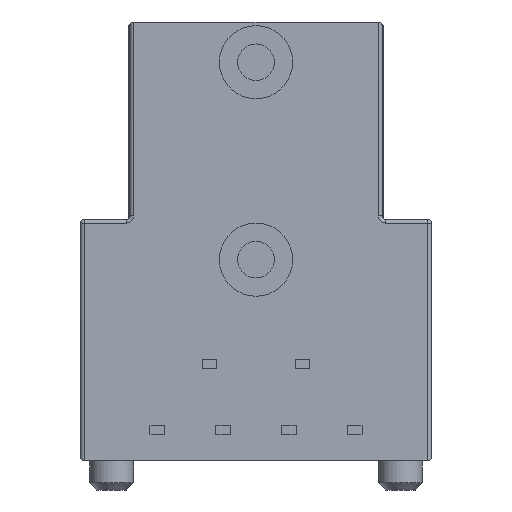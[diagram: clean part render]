
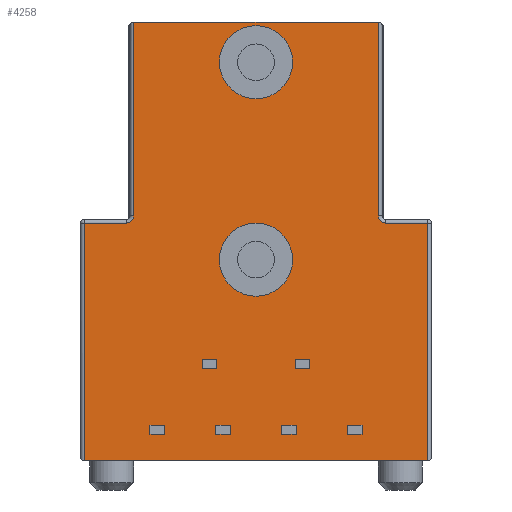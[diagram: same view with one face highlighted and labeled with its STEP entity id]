
A CAD part, front view. The second image highlights one B-rep face of the part: STEP entity #4258.
In plain terms, the highlighted planar face has unit normal (0, -1, 0).
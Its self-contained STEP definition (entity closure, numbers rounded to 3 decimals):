
#32 = ORIENTED_EDGE ( 'NONE', *, *, #3392, .T. ) ;
#75 = CARTESIAN_POINT ( 'NONE',  ( -5.307, -3.525, 19.2 ) ) ;
#81 = VERTEX_POINT ( 'NONE', #1781 ) ;
#92 = CARTESIAN_POINT ( 'NONE',  ( 1.093, -3.525, 19.2 ) ) ;
#237 = EDGE_LOOP ( 'NONE', ( #648, #1984 ) ) ;
#310 = VERTEX_POINT ( 'NONE', #2303 ) ;
#325 = VERTEX_POINT ( 'NONE', #1604 ) ;
#326 = LINE ( 'NONE', #1765, #4383 ) ;
#370 = VECTOR ( 'NONE', #2217, 1000. ) ;
#385 = EDGE_CURVE ( 'NONE', #4592, #2360, #3353, .T. ) ;
#394 = ORIENTED_EDGE ( 'NONE', *, *, #789, .T. ) ;
#439 = VECTOR ( 'NONE', #2723, 1000. ) ;
#456 = EDGE_CURVE ( 'NONE', #1485, #4478, #326, .T. ) ;
#477 = EDGE_CURVE ( 'NONE', #1816, #81, #839, .T. ) ;
#555 = DIRECTION ( 'NONE',  ( -1., 0., 0. ) ) ;
#564 = EDGE_LOOP ( 'NONE', ( #3582, #2120 ) ) ;
#602 = DIRECTION ( 'NONE',  ( -1., 0., 0. ) ) ;
#635 = DIRECTION ( 'NONE',  ( 0., 0., 1. ) ) ;
#648 = ORIENTED_EDGE ( 'NONE', *, *, #477, .F. ) ;
#758 = VECTOR ( 'NONE', #2672, 1000. ) ;
#778 = CARTESIAN_POINT ( 'NONE',  ( -1.957, -3.525, 18.1 ) ) ;
#789 = EDGE_CURVE ( 'NONE', #2210, #3567, #955, .T. ) ;
#839 = CIRCLE ( 'NONE', #4086, 1. ) ;
#955 = LINE ( 'NONE', #2681, #1883 ) ;
#1027 = EDGE_LOOP ( 'NONE', ( #4336, #1225, #394, #2363, #4355, #1545, #2893, #3626, #3832, #32 ) ) ;
#1204 = EDGE_CURVE ( 'NONE', #4592, #2131, #2500, .T. ) ;
#1225 = ORIENTED_EDGE ( 'NONE', *, *, #2356, .T. ) ;
#1284 = FACE_BOUND ( 'NONE', #564, .T. ) ;
#1329 = PLANE ( 'NONE',  #2308 ) ;
#1406 = CARTESIAN_POINT ( 'NONE',  ( -6.757, -3.525, 13.7 ) ) ;
#1485 = VERTEX_POINT ( 'NONE', #1911 ) ;
#1545 = ORIENTED_EDGE ( 'NONE', *, *, #4521, .F. ) ;
#1579 = DIRECTION ( 'NONE',  ( -1., 0., 0. ) ) ;
#1604 = CARTESIAN_POINT ( 'NONE',  ( -5.307, -3.525, 19.2 ) ) ;
#1616 = CARTESIAN_POINT ( 'NONE',  ( -5.507, -3.525, 13.7 ) ) ;
#1678 = CARTESIAN_POINT ( 'NONE',  ( -1.957, -3.525, 11.7 ) ) ;
#1699 = VECTOR ( 'NONE', #3104, 1000. ) ;
#1720 = EDGE_CURVE ( 'NONE', #1485, #3567, #3694, .T. ) ;
#1765 = CARTESIAN_POINT ( 'NONE',  ( 1.393, -3.525, 19.2 ) ) ;
#1781 = CARTESIAN_POINT ( 'NONE',  ( -1.957, -3.525, 17.1 ) ) ;
#1816 = VERTEX_POINT ( 'NONE', #2253 ) ;
#1866 = AXIS2_PLACEMENT_3D ( 'NONE', #4028, #3678, #1579 ) ;
#1883 = VECTOR ( 'NONE', #555, 1000. ) ;
#1911 = CARTESIAN_POINT ( 'NONE',  ( 1.393, -3.525, 13.9 ) ) ;
#1912 = DIRECTION ( 'NONE',  ( -1., 0., 0. ) ) ;
#1984 = ORIENTED_EDGE ( 'NONE', *, *, #4033, .F. ) ;
#1995 = CARTESIAN_POINT ( 'NONE',  ( -5.007, -3.525, 7.2 ) ) ;
#2051 = CARTESIAN_POINT ( 'NONE',  ( -1.957, -3.525, 18.1 ) ) ;
#2092 = CIRCLE ( 'NONE', #1866, 1. ) ;
#2120 = ORIENTED_EDGE ( 'NONE', *, *, #3029, .F. ) ;
#2131 = VERTEX_POINT ( 'NONE', #2205 ) ;
#2196 = CIRCLE ( 'NONE', #2786, 1. ) ;
#2198 = DIRECTION ( 'NONE',  ( -1., 0., 0. ) ) ;
#2205 = CARTESIAN_POINT ( 'NONE',  ( -6.657, -3.525, 13.7 ) ) ;
#2210 = VERTEX_POINT ( 'NONE', #4063 ) ;
#2217 = DIRECTION ( 'NONE',  ( 0., 0., -1. ) ) ;
#2253 = CARTESIAN_POINT ( 'NONE',  ( -1.957, -3.525, 19.1 ) ) ;
#2294 = CARTESIAN_POINT ( 'NONE',  ( -1.957, -3.525, 13.7 ) ) ;
#2303 = CARTESIAN_POINT ( 'NONE',  ( -6.657, -3.525, 7.2 ) ) ;
#2308 = AXIS2_PLACEMENT_3D ( 'NONE', #3458, #2701, #3509 ) ;
#2356 = EDGE_CURVE ( 'NONE', #2513, #2210, #2782, .T. ) ;
#2360 = VERTEX_POINT ( 'NONE', #3468 ) ;
#2363 = ORIENTED_EDGE ( 'NONE', *, *, #1720, .F. ) ;
#2422 = LINE ( 'NONE', #1995, #439 ) ;
#2444 = DIRECTION ( 'NONE',  ( 0., -1., 0. ) ) ;
#2486 = VECTOR ( 'NONE', #3148, 1000. ) ;
#2500 = LINE ( 'NONE', #1406, #2486 ) ;
#2513 = VERTEX_POINT ( 'NONE', #3240 ) ;
#2575 = EDGE_CURVE ( 'NONE', #3492, #2715, #2196, .T. ) ;
#2599 = CARTESIAN_POINT ( 'NONE',  ( -6.657, -3.525, 7.2 ) ) ;
#2615 = CARTESIAN_POINT ( 'NONE',  ( -1.957, -3.525, 12.7 ) ) ;
#2627 = DIRECTION ( 'NONE',  ( 0., -1., 0. ) ) ;
#2672 = DIRECTION ( 'NONE',  ( 1., 0., 0. ) ) ;
#2681 = CARTESIAN_POINT ( 'NONE',  ( -5.407, -3.525, 13.7 ) ) ;
#2701 = DIRECTION ( 'NONE',  ( 0., 1., 0. ) ) ;
#2715 = VERTEX_POINT ( 'NONE', #1678 ) ;
#2723 = DIRECTION ( 'NONE',  ( -1., 0., 0. ) ) ;
#2782 = LINE ( 'NONE', #3422, #1699 ) ;
#2786 = AXIS2_PLACEMENT_3D ( 'NONE', #2615, #2939, #1912 ) ;
#2893 = ORIENTED_EDGE ( 'NONE', *, *, #4059, .T. ) ;
#2939 = DIRECTION ( 'NONE',  ( 0., -1., 0. ) ) ;
#3029 = EDGE_CURVE ( 'NONE', #2715, #3492, #2092, .T. ) ;
#3048 = CARTESIAN_POINT ( 'NONE',  ( -5.507, -3.525, 13.9 ) ) ;
#3101 = EDGE_CURVE ( 'NONE', #2513, #310, #2422, .T. ) ;
#3104 = DIRECTION ( 'NONE',  ( 0., 0., 1. ) ) ;
#3148 = DIRECTION ( 'NONE',  ( -1., 0., 0. ) ) ;
#3151 = DIRECTION ( 'NONE',  ( -1., 0., 0. ) ) ;
#3240 = CARTESIAN_POINT ( 'NONE',  ( 2.743, -3.525, 7.2 ) ) ;
#3337 = CIRCLE ( 'NONE', #4226, 1. ) ;
#3353 = CIRCLE ( 'NONE', #4163, 0.2 ) ;
#3358 = LINE ( 'NONE', #2599, #4369 ) ;
#3392 = EDGE_CURVE ( 'NONE', #2131, #310, #3358, .T. ) ;
#3422 = CARTESIAN_POINT ( 'NONE',  ( 2.743, -3.525, 13.8 ) ) ;
#3458 = CARTESIAN_POINT ( 'NONE',  ( -5.407, -3.525, 19.2 ) ) ;
#3468 = CARTESIAN_POINT ( 'NONE',  ( -5.307, -3.525, 13.9 ) ) ;
#3492 = VERTEX_POINT ( 'NONE', #2294 ) ;
#3509 = DIRECTION ( 'NONE',  ( 1., 0., 0. ) ) ;
#3567 = VERTEX_POINT ( 'NONE', #4210 ) ;
#3582 = ORIENTED_EDGE ( 'NONE', *, *, #2575, .F. ) ;
#3625 = AXIS2_PLACEMENT_3D ( 'NONE', #3748, #2627, #3151 ) ;
#3626 = ORIENTED_EDGE ( 'NONE', *, *, #385, .F. ) ;
#3655 = CARTESIAN_POINT ( 'NONE',  ( 1.393, -3.525, 19.2 ) ) ;
#3678 = DIRECTION ( 'NONE',  ( 0., -1., 0. ) ) ;
#3694 = CIRCLE ( 'NONE', #3625, 0.2 ) ;
#3748 = CARTESIAN_POINT ( 'NONE',  ( 1.593, -3.525, 13.9 ) ) ;
#3754 = FACE_BOUND ( 'NONE', #237, .T. ) ;
#3832 = ORIENTED_EDGE ( 'NONE', *, *, #1204, .T. ) ;
#3901 = DIRECTION ( 'NONE',  ( 0., -1., 0. ) ) ;
#4028 = CARTESIAN_POINT ( 'NONE',  ( -1.957, -3.525, 12.7 ) ) ;
#4033 = EDGE_CURVE ( 'NONE', #81, #1816, #3337, .T. ) ;
#4059 = EDGE_CURVE ( 'NONE', #325, #2360, #4275, .T. ) ;
#4063 = CARTESIAN_POINT ( 'NONE',  ( 2.743, -3.525, 13.7 ) ) ;
#4086 = AXIS2_PLACEMENT_3D ( 'NONE', #2051, #2444, #602 ) ;
#4123 = FACE_OUTER_BOUND ( 'NONE', #1027, .T. ) ;
#4146 = DIRECTION ( 'NONE',  ( -1., 0., 0. ) ) ;
#4163 = AXIS2_PLACEMENT_3D ( 'NONE', #3048, #4456, #4146 ) ;
#4210 = CARTESIAN_POINT ( 'NONE',  ( 1.593, -3.525, 13.7 ) ) ;
#4226 = AXIS2_PLACEMENT_3D ( 'NONE', #778, #3901, #2198 ) ;
#4258 = ADVANCED_FACE ( 'NONE', ( #4123, #1284, #3754 ), #1329, .F. ) ;
#4275 = LINE ( 'NONE', #75, #370 ) ;
#4313 = DIRECTION ( 'NONE',  ( 0., 0., -1. ) ) ;
#4336 = ORIENTED_EDGE ( 'NONE', *, *, #3101, .F. ) ;
#4337 = LINE ( 'NONE', #92, #758 ) ;
#4355 = ORIENTED_EDGE ( 'NONE', *, *, #456, .T. ) ;
#4369 = VECTOR ( 'NONE', #4313, 1000. ) ;
#4383 = VECTOR ( 'NONE', #635, 1000. ) ;
#4456 = DIRECTION ( 'NONE',  ( 0., -1., 0. ) ) ;
#4478 = VERTEX_POINT ( 'NONE', #3655 ) ;
#4521 = EDGE_CURVE ( 'NONE', #325, #4478, #4337, .T. ) ;
#4592 = VERTEX_POINT ( 'NONE', #1616 ) ;
